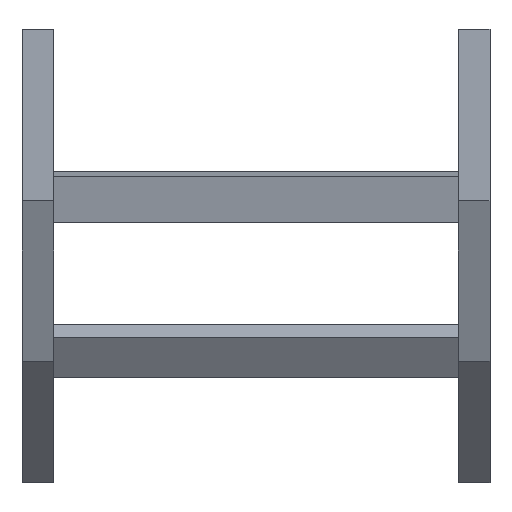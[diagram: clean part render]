
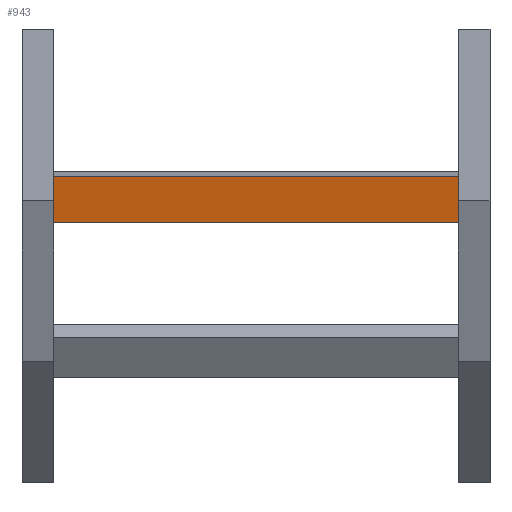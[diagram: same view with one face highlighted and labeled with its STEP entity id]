
A CAD part, front view. The second image highlights one B-rep face of the part: STEP entity #943.
In plain terms, the highlighted planar face has unit normal (0, -0.981, -0.195) as drawn and (0, -1, 0) by its records, which use the part's own axes.
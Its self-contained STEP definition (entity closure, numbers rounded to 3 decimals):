
#38 = DIRECTION ( 'NONE',  ( 0., 1., 0. ) ) ;
#64 = VECTOR ( 'NONE', #65, 1000. ) ;
#65 = DIRECTION ( 'NONE',  ( -1., 0., 0. ) ) ;
#86 = CARTESIAN_POINT ( 'NONE',  ( -198., 0., 20.25 ) ) ;
#115 = ORIENTED_EDGE ( 'NONE', *, *, #905, .T. ) ;
#138 = VERTEX_POINT ( 'NONE', #86 ) ;
#172 = CARTESIAN_POINT ( 'NONE',  ( 198., 0., 20.25 ) ) ;
#256 = FACE_OUTER_BOUND ( 'NONE', #1345, .T. ) ;
#344 = VERTEX_POINT ( 'NONE', #700 ) ;
#352 = CARTESIAN_POINT ( 'NONE',  ( -198., 0., 20.25 ) ) ;
#353 = VERTEX_POINT ( 'NONE', #401 ) ;
#365 = DIRECTION ( 'NONE',  ( 0., 0., 1. ) ) ;
#389 = LINE ( 'NONE', #508, #1433 ) ;
#401 = CARTESIAN_POINT ( 'NONE',  ( -198., 0., -20.25 ) ) ;
#407 = EDGE_CURVE ( 'NONE', #344, #1115, #1113, .T. ) ;
#435 = VECTOR ( 'NONE', #935, 1000. ) ;
#436 = DIRECTION ( 'NONE',  ( 0., 0., -1. ) ) ;
#485 = CARTESIAN_POINT ( 'NONE',  ( 198., 0., 20.25 ) ) ;
#508 = CARTESIAN_POINT ( 'NONE',  ( 198., 0., -20.25 ) ) ;
#576 = EDGE_CURVE ( 'NONE', #1115, #353, #389, .T. ) ;
#700 = CARTESIAN_POINT ( 'NONE',  ( 198., 0., 20.25 ) ) ;
#727 = PLANE ( 'NONE',  #1192 ) ;
#734 = LINE ( 'NONE', #172, #64 ) ;
#806 = ORIENTED_EDGE ( 'NONE', *, *, #576, .F. ) ;
#868 = CARTESIAN_POINT ( 'NONE',  ( 198., 0., 20.25 ) ) ;
#905 = EDGE_CURVE ( 'NONE', #138, #353, #1492, .T. ) ;
#935 = DIRECTION ( 'NONE',  ( 0., 0., -1. ) ) ;
#943 = ADVANCED_FACE ( 'NONE', ( #256 ), #727, .F. ) ;
#1068 = EDGE_CURVE ( 'NONE', #344, #138, #734, .T. ) ;
#1085 = ORIENTED_EDGE ( 'NONE', *, *, #407, .F. ) ;
#1113 = LINE ( 'NONE', #868, #1238 ) ;
#1115 = VERTEX_POINT ( 'NONE', #1193 ) ;
#1192 = AXIS2_PLACEMENT_3D ( 'NONE', #485, #38, #365 ) ;
#1193 = CARTESIAN_POINT ( 'NONE',  ( 198., 0., -20.25 ) ) ;
#1211 = DIRECTION ( 'NONE',  ( -1., 0., 0. ) ) ;
#1238 = VECTOR ( 'NONE', #436, 1000. ) ;
#1345 = EDGE_LOOP ( 'NONE', ( #115, #806, #1085, #1418 ) ) ;
#1418 = ORIENTED_EDGE ( 'NONE', *, *, #1068, .T. ) ;
#1433 = VECTOR ( 'NONE', #1211, 1000. ) ;
#1492 = LINE ( 'NONE', #352, #435 ) ;
